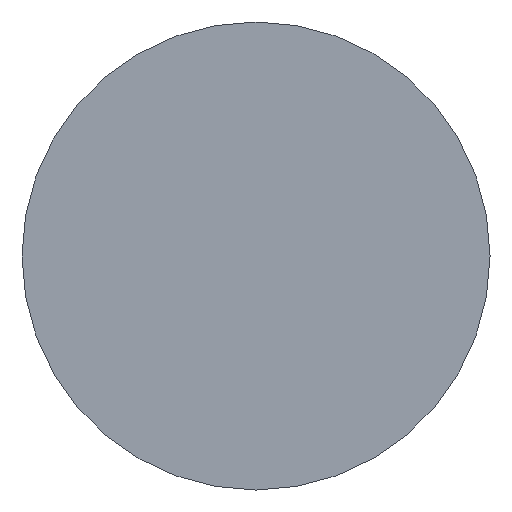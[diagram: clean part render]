
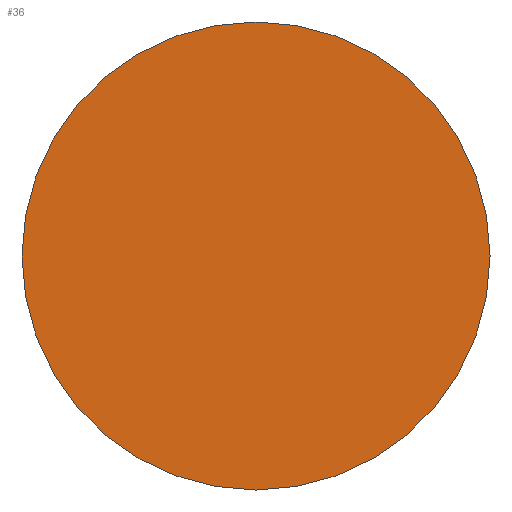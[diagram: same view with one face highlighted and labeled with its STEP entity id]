
A CAD part, front view. The second image highlights one B-rep face of the part: STEP entity #36.
In plain terms, the highlighted planar face has unit normal (0, -1, 0).
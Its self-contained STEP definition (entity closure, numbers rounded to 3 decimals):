
#17=FACE_OUTER_BOUND('',#20,.T.);
#20=EDGE_LOOP('',(#30));
#24=CIRCLE('',#48,2.);
#26=VERTEX_POINT('',#66);
#28=EDGE_CURVE('',#26,#26,#24,.T.);
#30=ORIENTED_EDGE('',*,*,#28,.T.);
#34=PLANE('',#47);
#36=ADVANCED_FACE('',(#17),#34,.F.);
#47=AXIS2_PLACEMENT_3D('',#65,#54,#55);
#48=AXIS2_PLACEMENT_3D('',#67,#56,#57);
#54=DIRECTION('center_axis',(0.,1.,0.));
#55=DIRECTION('ref_axis',(0.,0.,1.));
#56=DIRECTION('center_axis',(0.,-1.,0.));
#57=DIRECTION('ref_axis',(1.,0.,0.));
#65=CARTESIAN_POINT('Origin',(0.,-13.,0.));
#66=CARTESIAN_POINT('',(-2.,-13.,0.));
#67=CARTESIAN_POINT('Origin',(0.,-13.,0.));
